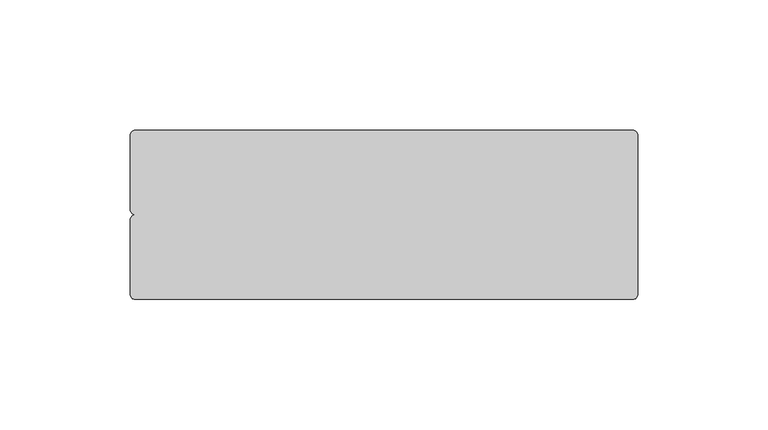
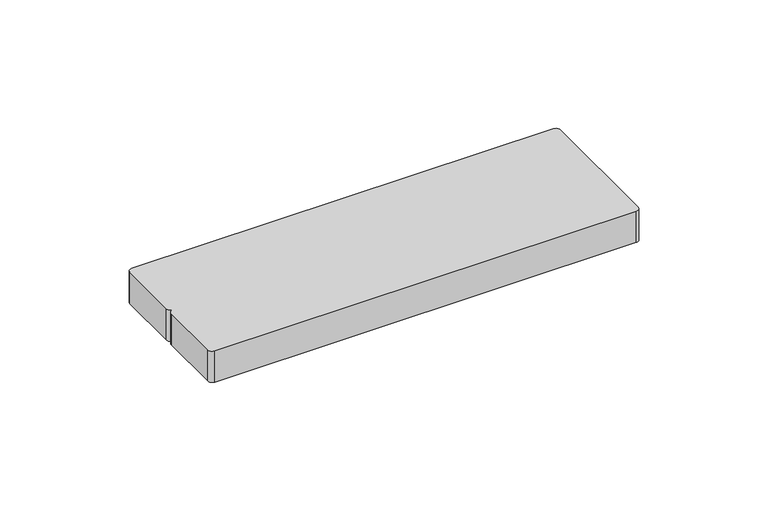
"""IFC4 building model written with IfcOpenShell, lengths in millimetres: duct fitting geometry, Заглушка торцевая - для кабель-каналов DLP - белый : 65х195мм."""

from ifc_helpers import new_model, si_unit, point, frame_2d, origin, origin_with_axes, place, context, project, spatial, polyline, circle_curve, trimmed, segment, composite_curve, outline, extrude, source, transform, mapped, element, save


def duct_fitting_b5dfe02e(model_context):
    return source(origin(), model_context, "Body", "SweptSolid", [
        extrude(outline(composite_curve([segment(trimmed(circle_curve(frame_2d((-95.5, -2.0)), 2.0), [point((-97.5, -2.0))], [point((-95.5, 0.0))], False, "CARTESIAN"), True, "CONTINUOUS"), segment(trimmed(circle_curve(frame_2d((-95.5, 2.0)), 2.0), [point((-95.5, 0.0))], [point((-97.5, 2.0))], False, "CARTESIAN"), True, "CONTINUOUS"), segment(polyline([(-97.5, 2.0), (-97.5, 30.5)]), True, "CONTINUOUS"), segment(trimmed(circle_curve(frame_2d((-95.5, 30.5)), 2.0), [point((-97.5, 30.5))], [point((-95.5, 32.5))], False, "CARTESIAN"), True, "CONTINUOUS"), segment(polyline([(-95.5, 32.5), (95.5, 32.5)]), True, "CONTINUOUS"), segment(trimmed(circle_curve(frame_2d((95.5, 30.5)), 2.0), [point((95.5, 32.5))], [point((97.5, 30.5))], False, "CARTESIAN"), True, "CONTINUOUS"), segment(polyline([(97.5, 30.5), (97.5, -30.5)]), True, "CONTINUOUS"), segment(trimmed(circle_curve(frame_2d((95.5, -30.5)), 2.0), [point((97.5, -30.5))], [point((95.5, -32.5))], False, "CARTESIAN"), True, "CONTINUOUS"), segment(polyline([(95.5, -32.5), (-95.5, -32.5)]), True, "CONTINUOUS"), segment(trimmed(circle_curve(frame_2d((-95.5, -30.5)), 2.0), [point((-95.5, -32.5))], [point((-97.5, -30.5))], False, "CARTESIAN"), True, "CONTINUOUS"), segment(polyline([(-97.5, -30.5), (-97.5, -2.0)]), True, "CONTINUOUS")], self_intersect=False)), origin_with_axes(), (0.0, 0.0, 1.0), 15.0),
    ])


if __name__ == "__main__":
    model = new_model("IFC4")
    model_context = context("Model", 3, world=origin())
    ifc_project = project(units=[si_unit("LENGTHUNIT", "METRE", prefix="MILLI")], contexts=[model_context])
    site = spatial("IfcSite", under=ifc_project)
    building = spatial("IfcBuilding", under=site)
    placement = place(None, origin())
    duct_fitting_shape = duct_fitting_b5dfe02e(model_context)
    element("IfcDuctFitting", 1, ObjectType="Заглушка торцевая - для кабель-каналов DLP - белый : 65х195мм", at=placement, inside=building, context=model_context, shape_type="MappedRepresentation", body=[
        mapped(duct_fitting_shape, transform((0.0, 0.0, 0.0), x_axis=(1.0, 0.0, 0.0), y_axis=(0.0, 1.0, 0.0), z_axis=(0.0, 0.0, 1.0))),
    ])
    save(model, "model.ifc")
